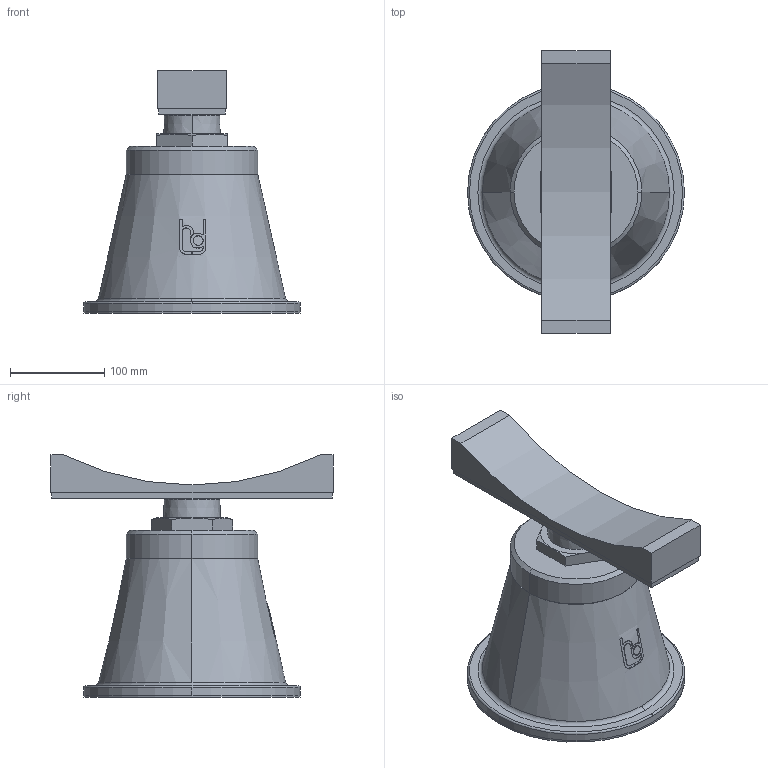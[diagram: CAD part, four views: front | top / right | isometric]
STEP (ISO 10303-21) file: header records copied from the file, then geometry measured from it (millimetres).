
FILE_DESCRIPTION(('STEP AP214'),'1');
FILE_NAME('RSRFN_DN600.stp','2018-06-29T13:15:02',(' '),(' '),'Spatial InterOp 3D',' ',' ');
FILE_SCHEMA(('automotive_design'));
Length unit declared in the file: millimetre
Products named in the file (6): 1; 2; 3; 4; 5; 6
Bounding box: 230 x 299 x 257 mm (x, y, z)
Volume: 5154325.7 mm3; surface area: 427222 mm2
Topology: 6 solids, 6 shells, 117 faces, 282 edges, 182 vertices
Faces by surface type: plane 49, cylinder 37, cone 23, torus 8
Entity records: 4852 total; most frequent: CARTESIAN_POINT 1045, DIRECTION 591, ORIENTED_EDGE 564, EDGE_CURVE 282, AXIS2_PLACEMENT_3D 228, VERTEX_POINT 182, LINE 135, VECTOR 135
